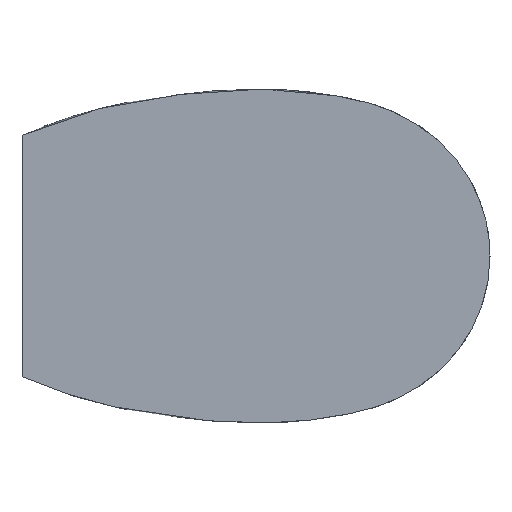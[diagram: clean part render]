
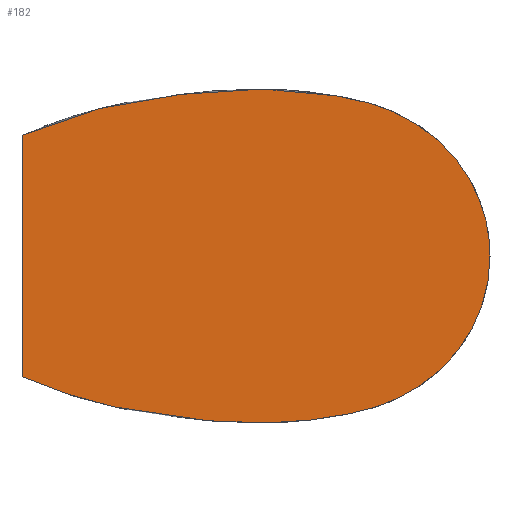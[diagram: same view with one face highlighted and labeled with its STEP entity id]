
A CAD part, left-side view. The second image highlights one B-rep face of the part: STEP entity #182.
In plain terms, the highlighted planar face has unit normal (-1, 0, 0).
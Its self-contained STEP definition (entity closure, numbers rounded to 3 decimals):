
#6=DIRECTION('',(0.,0.,1.));
#7=VECTOR('',#6,2.168);
#8=CARTESIAN_POINT('',(-9.,-0.3,-1.084));
#9=LINE('',#8,#7);
#10=CARTESIAN_POINT('',(-9.,-0.3,1.084));
#11=CARTESIAN_POINT('',(-9.,-0.378,1.118));
#12=CARTESIAN_POINT('',(-9.,-0.534,1.181));
#13=CARTESIAN_POINT('',(-9.,-0.773,1.263));
#14=CARTESIAN_POINT('',(-9.,-1.015,1.331));
#15=CARTESIAN_POINT('',(-9.,-1.261,1.385));
#16=CARTESIAN_POINT('',(-9.,-1.47,1.418));
#17=CARTESIAN_POINT('',(-9.,-1.639,1.44));
#18=CARTESIAN_POINT('',(-9.,-1.811,1.462));
#19=CARTESIAN_POINT('',(-9.,-2.031,1.487));
#20=CARTESIAN_POINT('',(-9.,-2.328,1.502));
#21=CARTESIAN_POINT('',(-9.,-2.658,1.497));
#22=CARTESIAN_POINT('',(-9.,-2.96,1.468));
#23=CARTESIAN_POINT('',(-9.,-3.203,1.425));
#24=CARTESIAN_POINT('',(-9.,-3.387,1.384));
#25=CARTESIAN_POINT('',(-9.,-3.569,1.326));
#26=CARTESIAN_POINT('',(-9.,-3.801,1.221));
#27=CARTESIAN_POINT('',(-9.,-4.065,1.035));
#28=CARTESIAN_POINT('',(-9.,-4.272,0.785));
#29=CARTESIAN_POINT('',(-9.,-4.39,0.558));
#30=CARTESIAN_POINT('',(-9.,-4.454,0.377));
#31=CARTESIAN_POINT('',(-9.,-4.493,0.19));
#32=CARTESIAN_POINT('',(-9.,-4.502,0.063));
#33=CARTESIAN_POINT('',(-9.,-4.502,0.));
#35=CARTESIAN_POINT('',(-9.,-4.502,0.));
#36=CARTESIAN_POINT('',(-9.,-4.502,-0.063));
#37=CARTESIAN_POINT('',(-9.,-4.493,-0.19));
#38=CARTESIAN_POINT('',(-9.,-4.454,-0.377));
#39=CARTESIAN_POINT('',(-9.,-4.39,-0.558));
#40=CARTESIAN_POINT('',(-9.,-4.272,-0.785));
#41=CARTESIAN_POINT('',(-9.,-4.065,-1.035));
#42=CARTESIAN_POINT('',(-9.,-3.801,-1.221));
#43=CARTESIAN_POINT('',(-9.,-3.569,-1.326));
#44=CARTESIAN_POINT('',(-9.,-3.387,-1.384));
#45=CARTESIAN_POINT('',(-9.,-3.203,-1.425));
#46=CARTESIAN_POINT('',(-9.,-2.96,-1.468));
#47=CARTESIAN_POINT('',(-9.,-2.658,-1.497));
#48=CARTESIAN_POINT('',(-9.,-2.328,-1.502));
#49=CARTESIAN_POINT('',(-9.,-2.031,-1.487));
#50=CARTESIAN_POINT('',(-9.,-1.811,-1.462));
#51=CARTESIAN_POINT('',(-9.,-1.639,-1.44));
#52=CARTESIAN_POINT('',(-9.,-1.47,-1.418));
#53=CARTESIAN_POINT('',(-9.,-1.261,-1.385));
#54=CARTESIAN_POINT('',(-9.,-1.015,-1.331));
#55=CARTESIAN_POINT('',(-9.,-0.773,-1.263));
#56=CARTESIAN_POINT('',(-9.,-0.534,-1.181));
#57=CARTESIAN_POINT('',(-9.,-0.378,-1.118));
#58=CARTESIAN_POINT('',(-9.,-0.3,-1.084));
#147=CARTESIAN_POINT('',(-9.,-0.3,-1.084));
#148=CARTESIAN_POINT('',(-9.,-0.3,1.084));
#149=VERTEX_POINT('',#147);
#150=VERTEX_POINT('',#148);
#151=VERTEX_POINT('',#35);
#170=CARTESIAN_POINT('',(-9.,0.,0.));
#171=DIRECTION('',(1.,0.,0.));
#172=DIRECTION('',(0.,0.,-1.));
#173=AXIS2_PLACEMENT_3D('',#170,#171,#172);
#174=PLANE('',#173);
#175=ORIENTED_EDGE('',*,*,#157,.T.);
#177=ORIENTED_EDGE('',*,*,#176,.T.);
#179=ORIENTED_EDGE('',*,*,#178,.T.);
#180=EDGE_LOOP('',(#175,#177,#179));
#181=FACE_OUTER_BOUND('',#180,.F.);
#182=ADVANCED_FACE('',(#181),#174,.F.);
#34=B_SPLINE_CURVE_WITH_KNOTS('',3,(#10,#11,#12,#13,#14,#15,#16,#17,#18,#19,#20,
#21,#22,#23,#24,#25,#26,#27,#28,#29,#30,#31,#32,#33),.UNSPECIFIED.,.F.,.F.,(4,1,
1,1,1,1,1,1,1,1,1,1,1,1,1,1,1,1,1,1,1,4),(0.,0.05,
0.1,0.15,0.199,0.249,
0.275,0.3,0.352,0.406,
0.476,0.548,0.585,0.622,
0.66,0.698,0.773,0.849,
0.887,0.925,0.963,1.),.UNSPECIFIED.);
#59=B_SPLINE_CURVE_WITH_KNOTS('',3,(#35,#36,#37,#38,#39,#40,#41,#42,#43,#44,#45,
#46,#47,#48,#49,#50,#51,#52,#53,#54,#55,#56,#57,#58),.UNSPECIFIED.,.F.,.F.,(4,1,
1,1,1,1,1,1,1,1,1,1,1,1,1,1,1,1,1,1,1,4),(0.,0.037,
0.075,0.113,0.151,0.227,
0.302,0.34,0.378,0.415,
0.452,0.524,0.594,0.648,
0.7,0.725,0.751,0.801,
0.85,0.9,0.95,1.),.UNSPECIFIED.);
#157=EDGE_CURVE('',#149,#150,#9,.T.);
#176=EDGE_CURVE('',#150,#151,#34,.T.);
#178=EDGE_CURVE('',#151,#149,#59,.T.);
